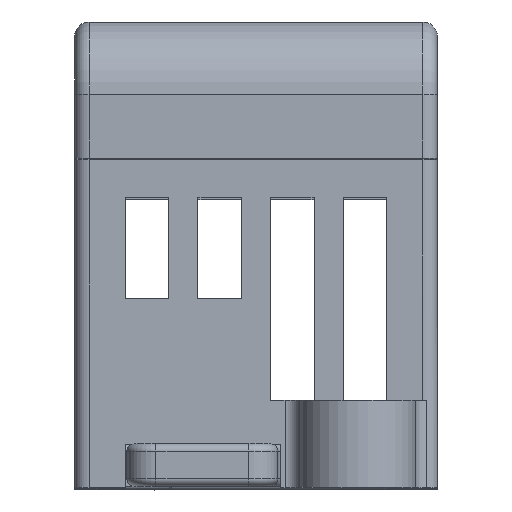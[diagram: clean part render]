
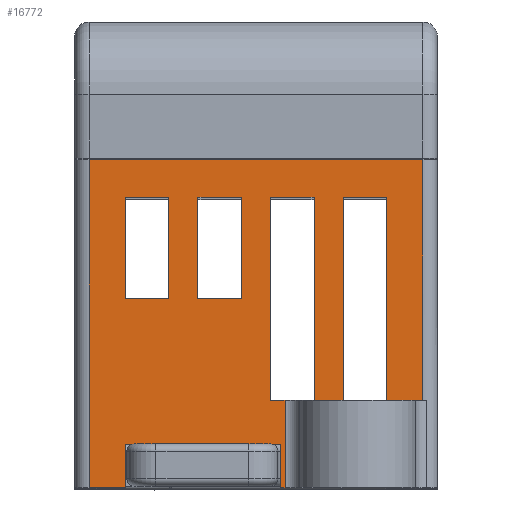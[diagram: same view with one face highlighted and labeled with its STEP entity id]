
A CAD part, top view. The second image highlights one B-rep face of the part: STEP entity #16772.
In plain terms, the highlighted planar face has unit normal (0, 0, 1).
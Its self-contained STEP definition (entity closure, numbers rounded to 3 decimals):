
#8291=DIRECTION('',(1.,0.,0.));
#8292=VECTOR('',#8291,2.5);
#8293=CARTESIAN_POINT('',(-11.5,0.,45.));
#8294=LINE('',#8293,#8292);
#8480=DIRECTION('',(0.,-1.,0.));
#8481=VECTOR('',#8480,14.);
#8482=CARTESIAN_POINT('',(1.,20.,45.));
#8483=LINE('',#8482,#8481);
#8487=DIRECTION('',(1.,0.,0.));
#8488=VECTOR('',#8487,1.);
#8489=CARTESIAN_POINT('',(1.,6.,45.));
#8490=LINE('',#8489,#8488);
#8494=DIRECTION('',(0.,-1.,0.));
#8495=VECTOR('',#8494,6.);
#8496=CARTESIAN_POINT('',(2.,6.,45.));
#8497=LINE('',#8496,#8495);
#8501=DIRECTION('',(-1.,0.,0.));
#8502=VECTOR('',#8501,0.3);
#8503=CARTESIAN_POINT('',(2.,0.,45.));
#8504=LINE('',#8503,#8502);
#8508=DIRECTION('',(1.,0.,0.));
#8509=VECTOR('',#8508,10.7);
#8510=CARTESIAN_POINT('',(-9.,3.,45.));
#8511=LINE('',#8510,#8509);
#8515=DIRECTION('',(0.,1.,0.));
#8516=VECTOR('',#8515,3.);
#8517=CARTESIAN_POINT('',(-9.,0.,45.));
#8518=LINE('',#8517,#8516);
#8522=DIRECTION('',(1.,0.,0.));
#8523=VECTOR('',#8522,23.);
#8524=CARTESIAN_POINT('',(-11.5,22.6,45.));
#8525=LINE('',#8524,#8523);
#8529=DIRECTION('',(0.,1.,0.));
#8530=VECTOR('',#8529,14.);
#8531=CARTESIAN_POINT('',(9.,6.,45.));
#8532=LINE('',#8531,#8530);
#8536=DIRECTION('',(-1.,0.,0.));
#8537=VECTOR('',#8536,3.);
#8538=CARTESIAN_POINT('',(9.,20.,45.));
#8539=LINE('',#8538,#8537);
#8543=DIRECTION('',(0.,-1.,0.));
#8544=VECTOR('',#8543,14.);
#8545=CARTESIAN_POINT('',(6.,20.,45.));
#8546=LINE('',#8545,#8544);
#8550=DIRECTION('',(0.,1.,0.));
#8551=VECTOR('',#8550,14.);
#8552=CARTESIAN_POINT('',(4.,6.,45.));
#8553=LINE('',#8552,#8551);
#8557=DIRECTION('',(-1.,0.,0.));
#8558=VECTOR('',#8557,3.);
#8559=CARTESIAN_POINT('',(4.,20.,45.));
#8560=LINE('',#8559,#8558);
#8564=DIRECTION('',(-1.,0.,0.));
#8565=VECTOR('',#8564,3.);
#8566=CARTESIAN_POINT('',(-1.,20.,45.));
#8567=LINE('',#8566,#8565);
#8571=DIRECTION('',(0.,-1.,0.));
#8572=VECTOR('',#8571,7.);
#8573=CARTESIAN_POINT('',(-4.,20.,45.));
#8574=LINE('',#8573,#8572);
#8578=DIRECTION('',(1.,0.,0.));
#8579=VECTOR('',#8578,3.);
#8580=CARTESIAN_POINT('',(-4.,13.,45.));
#8581=LINE('',#8580,#8579);
#8585=DIRECTION('',(0.,1.,0.));
#8586=VECTOR('',#8585,7.);
#8587=CARTESIAN_POINT('',(-1.,13.,45.));
#8588=LINE('',#8587,#8586);
#8592=DIRECTION('',(-1.,0.,0.));
#8593=VECTOR('',#8592,3.);
#8594=CARTESIAN_POINT('',(-6.,20.,45.));
#8595=LINE('',#8594,#8593);
#8599=DIRECTION('',(0.,-1.,0.));
#8600=VECTOR('',#8599,7.);
#8601=CARTESIAN_POINT('',(-9.,20.,45.));
#8602=LINE('',#8601,#8600);
#8606=DIRECTION('',(1.,0.,0.));
#8607=VECTOR('',#8606,3.);
#8608=CARTESIAN_POINT('',(-9.,13.,45.));
#8609=LINE('',#8608,#8607);
#8613=DIRECTION('',(0.,1.,0.));
#8614=VECTOR('',#8613,7.);
#8615=CARTESIAN_POINT('',(-6.,13.,45.));
#8616=LINE('',#8615,#8614);
#8737=DIRECTION('',(1.,0.,0.));
#8738=VECTOR('',#8737,2.);
#8739=CARTESIAN_POINT('',(4.,6.,45.));
#8740=LINE('',#8739,#8738);
#8751=DIRECTION('',(1.,0.,0.));
#8752=VECTOR('',#8751,2.5);
#8753=CARTESIAN_POINT('',(9.,6.,45.));
#8754=LINE('',#8753,#8752);
#13448=DIRECTION('',(0.,1.,0.));
#13449=VECTOR('',#13448,3.);
#13450=CARTESIAN_POINT('',(1.7,0.,45.));
#13451=LINE('',#13450,#13449);
#14967=DIRECTION('',(0.,-1.,0.));
#14968=VECTOR('',#14967,16.6);
#14969=CARTESIAN_POINT('',(11.5,22.6,45.));
#14970=LINE('',#14969,#14968);
#15244=DIRECTION('',(0.,-1.,0.));
#15245=VECTOR('',#15244,22.6);
#15246=CARTESIAN_POINT('',(-11.5,22.6,45.));
#15247=LINE('',#15246,#15245);
#15302=CARTESIAN_POINT('',(-11.5,0.,45.));
#15304=VERTEX_POINT('',#15302);
#15322=CARTESIAN_POINT('',(-9.,0.,45.));
#15323=VERTEX_POINT('',#15322);
#15594=CARTESIAN_POINT('',(-11.5,22.6,45.));
#15595=CARTESIAN_POINT('',(11.5,22.6,45.));
#15596=VERTEX_POINT('',#15594);
#15597=VERTEX_POINT('',#15595);
#16093=CARTESIAN_POINT('',(11.5,6.,45.));
#16094=VERTEX_POINT('',#16093);
#16097=CARTESIAN_POINT('',(2.,0.,45.));
#16098=VERTEX_POINT('',#16097);
#16103=CARTESIAN_POINT('',(1.7,0.,45.));
#16104=CARTESIAN_POINT('',(1.7,3.,45.));
#16105=VERTEX_POINT('',#16103);
#16106=VERTEX_POINT('',#16104);
#16107=CARTESIAN_POINT('',(-9.,3.,45.));
#16108=VERTEX_POINT('',#16107);
#16390=CARTESIAN_POINT('',(1.,20.,45.));
#16391=CARTESIAN_POINT('',(1.,6.,45.));
#16392=VERTEX_POINT('',#16390);
#16393=VERTEX_POINT('',#16391);
#16394=CARTESIAN_POINT('',(2.,6.,45.));
#16395=VERTEX_POINT('',#16394);
#16396=CARTESIAN_POINT('',(4.,6.,45.));
#16397=CARTESIAN_POINT('',(4.,20.,45.));
#16398=VERTEX_POINT('',#16396);
#16399=VERTEX_POINT('',#16397);
#16400=CARTESIAN_POINT('',(6.,20.,45.));
#16401=CARTESIAN_POINT('',(6.,6.,45.));
#16402=VERTEX_POINT('',#16400);
#16403=VERTEX_POINT('',#16401);
#16404=CARTESIAN_POINT('',(9.,6.,45.));
#16405=CARTESIAN_POINT('',(9.,20.,45.));
#16406=VERTEX_POINT('',#16404);
#16407=VERTEX_POINT('',#16405);
#16408=CARTESIAN_POINT('',(-1.,20.,45.));
#16409=CARTESIAN_POINT('',(-4.,20.,45.));
#16410=VERTEX_POINT('',#16408);
#16411=VERTEX_POINT('',#16409);
#16412=CARTESIAN_POINT('',(-4.,13.,45.));
#16413=VERTEX_POINT('',#16412);
#16414=CARTESIAN_POINT('',(-1.,13.,45.));
#16415=VERTEX_POINT('',#16414);
#16416=CARTESIAN_POINT('',(-6.,20.,45.));
#16417=CARTESIAN_POINT('',(-9.,20.,45.));
#16418=VERTEX_POINT('',#16416);
#16419=VERTEX_POINT('',#16417);
#16420=CARTESIAN_POINT('',(-9.,13.,45.));
#16421=VERTEX_POINT('',#16420);
#16422=CARTESIAN_POINT('',(-6.,13.,45.));
#16423=VERTEX_POINT('',#16422);
#16712=CARTESIAN_POINT('',(-12.5,0.,45.));
#16713=DIRECTION('',(0.,0.,1.));
#16714=DIRECTION('',(1.,0.,0.));
#16715=AXIS2_PLACEMENT_3D('',#16712,#16713,#16714);
#16716=PLANE('',#16715);
#16718=ORIENTED_EDGE('',*,*,#16717,.T.);
#16720=ORIENTED_EDGE('',*,*,#16719,.T.);
#16722=ORIENTED_EDGE('',*,*,#16721,.T.);
#16723=ORIENTED_EDGE('',*,*,#16629,.T.);
#16725=ORIENTED_EDGE('',*,*,#16724,.T.);
#16727=ORIENTED_EDGE('',*,*,#16726,.F.);
#16728=ORIENTED_EDGE('',*,*,#16701,.F.);
#16729=ORIENTED_EDGE('',*,*,#16543,.F.);
#16731=ORIENTED_EDGE('',*,*,#16730,.F.);
#16733=ORIENTED_EDGE('',*,*,#16732,.T.);
#16735=ORIENTED_EDGE('',*,*,#16734,.T.);
#16737=ORIENTED_EDGE('',*,*,#16736,.F.);
#16739=ORIENTED_EDGE('',*,*,#16738,.T.);
#16741=ORIENTED_EDGE('',*,*,#16740,.T.);
#16743=ORIENTED_EDGE('',*,*,#16742,.T.);
#16745=ORIENTED_EDGE('',*,*,#16744,.F.);
#16747=ORIENTED_EDGE('',*,*,#16746,.T.);
#16749=ORIENTED_EDGE('',*,*,#16748,.T.);
#16750=EDGE_LOOP('',(#16718,#16720,#16722,#16723,#16725,#16727,#16728,#16729,
#16731,#16733,#16735,#16737,#16739,#16741,#16743,#16745,#16747,#16749));
#16751=FACE_OUTER_BOUND('',#16750,.F.);
#16753=ORIENTED_EDGE('',*,*,#16752,.T.);
#16755=ORIENTED_EDGE('',*,*,#16754,.T.);
#16757=ORIENTED_EDGE('',*,*,#16756,.T.);
#16759=ORIENTED_EDGE('',*,*,#16758,.T.);
#16760=EDGE_LOOP('',(#16753,#16755,#16757,#16759));
#16761=FACE_BOUND('',#16760,.F.);
#16763=ORIENTED_EDGE('',*,*,#16762,.T.);
#16765=ORIENTED_EDGE('',*,*,#16764,.T.);
#16767=ORIENTED_EDGE('',*,*,#16766,.T.);
#16769=ORIENTED_EDGE('',*,*,#16768,.T.);
#16770=EDGE_LOOP('',(#16763,#16765,#16767,#16769));
#16771=FACE_BOUND('',#16770,.F.);
#16772=ADVANCED_FACE('',(#16751,#16761,#16771),#16716,.T.);
#16543=EDGE_CURVE('',#15304,#15323,#8294,.T.);
#16629=EDGE_CURVE('',#16098,#16105,#8504,.T.);
#16701=EDGE_CURVE('',#15323,#16108,#8518,.T.);
#16717=EDGE_CURVE('',#16392,#16393,#8483,.T.);
#16719=EDGE_CURVE('',#16393,#16395,#8490,.T.);
#16721=EDGE_CURVE('',#16395,#16098,#8497,.T.);
#16724=EDGE_CURVE('',#16105,#16106,#13451,.T.);
#16726=EDGE_CURVE('',#16108,#16106,#8511,.T.);
#16730=EDGE_CURVE('',#15596,#15304,#15247,.T.);
#16732=EDGE_CURVE('',#15596,#15597,#8525,.T.);
#16734=EDGE_CURVE('',#15597,#16094,#14970,.T.);
#16736=EDGE_CURVE('',#16406,#16094,#8754,.T.);
#16738=EDGE_CURVE('',#16406,#16407,#8532,.T.);
#16740=EDGE_CURVE('',#16407,#16402,#8539,.T.);
#16742=EDGE_CURVE('',#16402,#16403,#8546,.T.);
#16744=EDGE_CURVE('',#16398,#16403,#8740,.T.);
#16746=EDGE_CURVE('',#16398,#16399,#8553,.T.);
#16748=EDGE_CURVE('',#16399,#16392,#8560,.T.);
#16752=EDGE_CURVE('',#16410,#16411,#8567,.T.);
#16754=EDGE_CURVE('',#16411,#16413,#8574,.T.);
#16756=EDGE_CURVE('',#16413,#16415,#8581,.T.);
#16758=EDGE_CURVE('',#16415,#16410,#8588,.T.);
#16762=EDGE_CURVE('',#16418,#16419,#8595,.T.);
#16764=EDGE_CURVE('',#16419,#16421,#8602,.T.);
#16766=EDGE_CURVE('',#16421,#16423,#8609,.T.);
#16768=EDGE_CURVE('',#16423,#16418,#8616,.T.);
